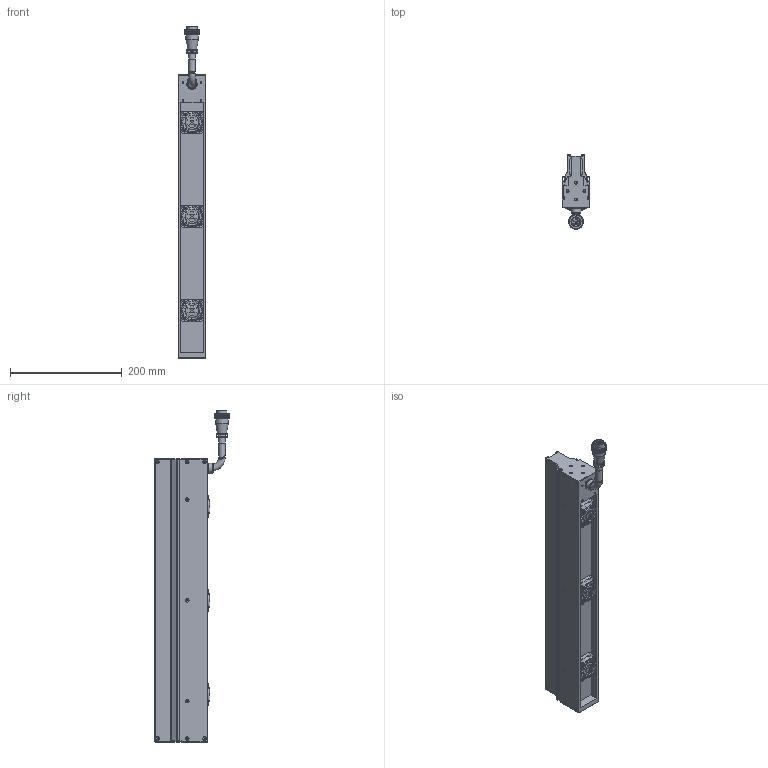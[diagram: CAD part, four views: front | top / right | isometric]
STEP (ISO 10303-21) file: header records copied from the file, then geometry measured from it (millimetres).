
FILE_DESCRIPTION (( 'STEP AP203' ), '1' );
FILE_NAME ('OPT-LSS506-R-V3.1尨砩芞.STEP', '2025-01-21T03:27:52', ( 'USER' ), ( '' ), 'SwSTEP 2.0', 'SolidWorks 2016', '' );
FILE_SCHEMA (( 'CONFIG_CONTROL_DESIGN' ));
Products named in the file (2): OPT-LSS506-R-V3.1尨砩芞
Bounding box: 50 x 133 x 593.1 mm (x, y, z)
Volume: 1691269.5 mm3; surface area: 255014 mm2
Topology: 17 solids, 25 shells, 2522 faces, 6512 edges, 4124 vertices
Faces by surface type: bspline 1024, cylinder 747, plane 523, torus 177, cone 51
Full cylindrical faces by diameter (mm): 1 x2, 1.1 x2, 1.4 x2, 1.6 x12, 2 x3, 2.5 x22, 3 x4, 3.2 x16, 3.4 x18, 3.5 x4, 5 x8, 6.2 x12, 8 x1, 11.6 x1, 11.7 x3, 12 x1, 15 x1, 15.9 x1, 17.5 x1, 18 x1, 18.5 x1, 22.8 x1, 24 x1, 24.8 x3, 38 x3
Entity records: 96464 total; most frequent: CARTESIAN_POINT 46602, ORIENTED_EDGE 12384, DIRECTION 6316, EDGE_CURVE 6192, VERTEX_POINT 4050, B_SPLINE_CURVE_WITH_KNOTS 3936, EDGE_LOOP 2886, FACE_OUTER_BOUND 2705
